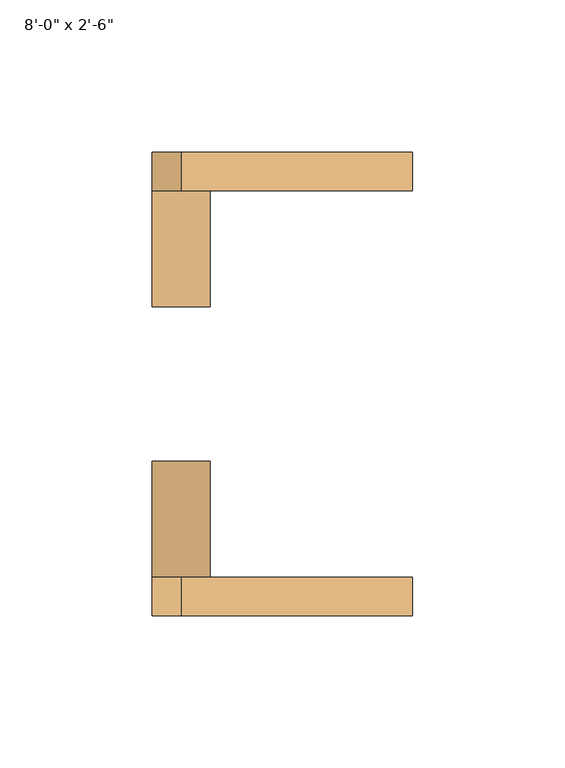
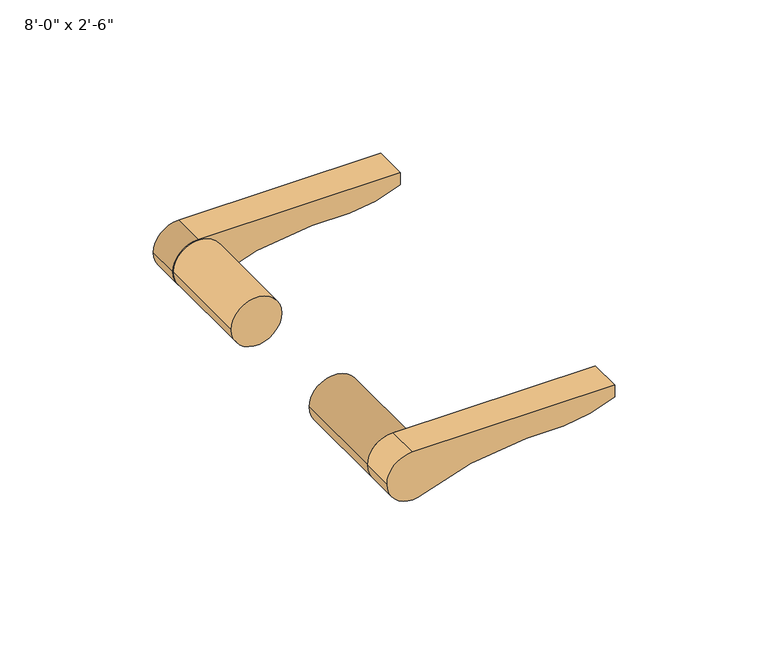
"""IFC4 building model written with IfcOpenShell, lengths in millimetres: door geometry."""

from ifc_helpers import new_model, si_unit, point, frame, frame_2d, origin, place, context, project, spatial, polyline, circle_curve, trimmed, segment, composite_curve, outline, extrude, source, transform, mapped, element, save


def door_ffea6ccb(model_context):
    return source(origin(), model_context, "Body", "SweptSolid", [
        extrude(outline(composite_curve([segment(trimmed(circle_curve(frame_2d((1016.0, -317.5)), 9.525), [point((1016.0, -327.025))], [point((1006.7131627, -315.3833333))], False, "CARTESIAN"), True, "CONTINUOUS"), segment(trimmed(circle_curve(frame_2d((910.8226001, -272.0965958)), 105.2080873), [point((1006.7131627, -315.3833333))], [point((1016.0, -274.6375))], True, "CARTESIAN"), True, "CONTINUOUS"), segment(polyline([(1016.0, -274.6375), (1016.0, -260.4013442)]), True, "CONTINUOUS"), segment(trimmed(circle_curve(frame_2d((1066.7220571, -262.903389)), 50.7837307), [point((1016.0, -260.4013442))], [point((1020.7625, -241.3))], False, "CARTESIAN"), True, "CONTINUOUS"), segment(polyline([(1020.7625, -241.3), (1025.525, -241.3), (1025.525, -317.5)]), True, "CONTINUOUS"), segment(trimmed(circle_curve(frame_2d((1016.0, -317.5)), 9.525), [point((1025.525, -317.5))], [point((1016.0, -327.025))], False, "CARTESIAN"), True, "CONTINUOUS")], self_intersect=False)), frame((0.0, 38.1, 0.0), z_axis=(0.0, 1.0, 0.0), x_axis=(0.0, 0.0, 1.0)), (0.0, 0.0, 1.0), 12.7),
        extrude(outline(composite_curve([segment(trimmed(circle_curve(frame_2d((1016.0, -317.5)), 9.525), [point((1016.0, -327.025))], [point((1006.7131627, -315.3833333))], False, "CARTESIAN"), True, "CONTINUOUS"), segment(trimmed(circle_curve(frame_2d((910.8226001, -272.0965958)), 105.2080873), [point((1006.7131627, -315.3833333))], [point((1016.0, -274.6375))], True, "CARTESIAN"), True, "CONTINUOUS"), segment(polyline([(1016.0, -274.6375), (1016.0, -260.4013442)]), True, "CONTINUOUS"), segment(trimmed(circle_curve(frame_2d((1066.7220571, -262.903389)), 50.7837307), [point((1016.0, -260.4013442))], [point((1020.7625, -241.3))], False, "CARTESIAN"), True, "CONTINUOUS"), segment(polyline([(1020.7625, -241.3), (1025.525, -241.3), (1025.525, -317.5)]), True, "CONTINUOUS"), segment(trimmed(circle_curve(frame_2d((1016.0, -317.5)), 9.525), [point((1025.525, -317.5))], [point((1016.0, -327.025))], False, "CARTESIAN"), True, "CONTINUOUS")], self_intersect=False)), frame((0.0, -101.6, 0.0), z_axis=(0.0, 1.0, 0.0), x_axis=(0.0, 0.0, 1.0)), (0.0, 0.0, 1.0), 12.7),
        extrude(outline(composite_curve([segment(trimmed(circle_curve(frame_2d((1016.0, -317.5)), 9.525), [point((1016.0, -307.975))], [point((1016.0, -327.025))], False, "CARTESIAN"), True, "CONTINUOUS"), segment(trimmed(circle_curve(frame_2d((1016.0, -317.5)), 9.525), [point((1016.0, -327.025))], [point((1016.0, -307.975))], False, "CARTESIAN"), True, "CONTINUOUS")], self_intersect=False)), frame((0.0, -88.9, 0.0), z_axis=(0.0, 1.0, 0.0), x_axis=(0.0, 0.0, 1.0)), (0.0, 0.0, 1.0), 38.1),
        extrude(outline(composite_curve([segment(trimmed(circle_curve(frame_2d((1016.0, -317.5)), 9.525), [point((1016.0, -307.975))], [point((1016.0, -327.025))], False, "CARTESIAN"), True, "CONTINUOUS"), segment(trimmed(circle_curve(frame_2d((1016.0, -317.5)), 9.525), [point((1016.0, -327.025))], [point((1016.0, -307.975))], False, "CARTESIAN"), True, "CONTINUOUS")], self_intersect=False)), frame((0.0, 0.0, 0.0), z_axis=(0.0, 1.0, 0.0), x_axis=(0.0, 0.0, 1.0)), (0.0, 0.0, 1.0), 38.1),
    ])


if __name__ == "__main__":
    model = new_model("IFC4")
    model_context = context("Model", 3, world=origin())
    ifc_project = project(units=[si_unit("LENGTHUNIT", "METRE", prefix="MILLI")], contexts=[model_context])
    site = spatial("IfcSite", under=ifc_project)
    building = spatial("IfcBuilding", under=site)
    placement = place(None, origin())
    door_shape = door_ffea6ccb(model_context)
    element("IfcDoor", 1, ObjectType="Planitar - Single Door_Swapper : 8'-0\" x 2'-6\"", at=placement, inside=building, context=model_context, shape_type="MappedRepresentation", body=[
        mapped(door_shape, transform((0.0, 0.0, 0.0), x_axis=(1.0, 0.0, 0.0), y_axis=(0.0, 1.0, 0.0), z_axis=(0.0, 0.0, 1.0))),
    ])
    save(model, "model.ifc")
